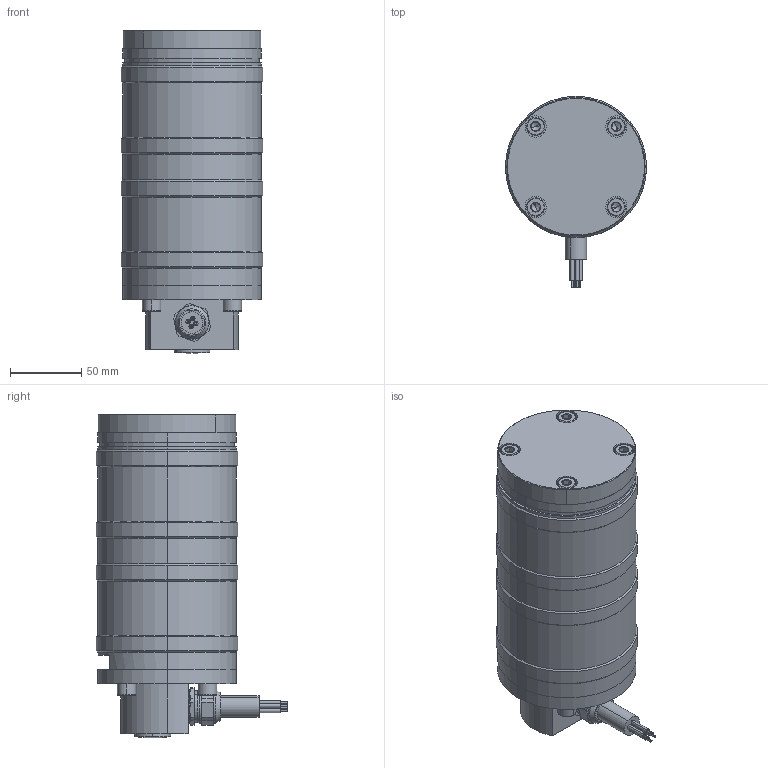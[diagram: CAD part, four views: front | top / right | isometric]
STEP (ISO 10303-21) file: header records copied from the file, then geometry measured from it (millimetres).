
FILE_DESCRIPTION (( 'STEP AP214' ), '1' );
FILE_NAME ('KOSD-107 1 MN Load Cell.STEP', '2021-03-15T10:49:54', ( '' ), ( '' ), 'SwSTEP 2.0', 'SolidWorks 2021', '' );
FILE_SCHEMA (( 'AUTOMOTIVE_DESIGN' ));
Length unit declared in the file: millimetre
Products named in the file (8): Wiberger-din912_m8x20; RFOU; 6369853; 4090181; Pg16 - Lock - 700782; KOSD-107 1 MN Load Cell; 5190196; pg16  RFOU
Assembly tree (14 placements, depth 2):
  KOSD-107 1 MN Load Cell
    4090181
    5190196
    6369853
    RFOU
    Pg16 - Lock - 700782
    pg16  RFOU
    Wiberger-din912_m8x20  x8
Bounding box: 99 x 134 x 226.91 mm (x, y, z)
Volume: 1489040.5 mm3; surface area: 137231.6 mm2
Topology: 14 solids, 14 shells, 471 faces, 944 edges, 530 vertices
Faces by surface type: plane 178, cylinder 157, cone 108, bspline 22, torus 4, sphere 2
Entity records: 8307 total; most frequent: CARTESIAN_POINT 1691, DIRECTION 1385, ORIENTED_EDGE 1114, AXIS2_PLACEMENT_3D 587, EDGE_CURVE 557, VERTEX_POINT 341, CIRCLE 317, EDGE_LOOP 314
